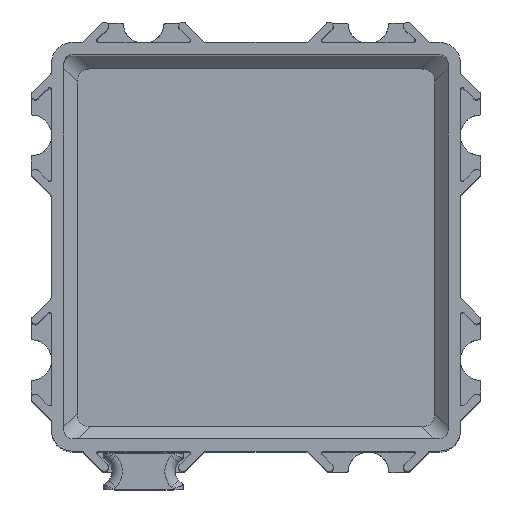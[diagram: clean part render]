
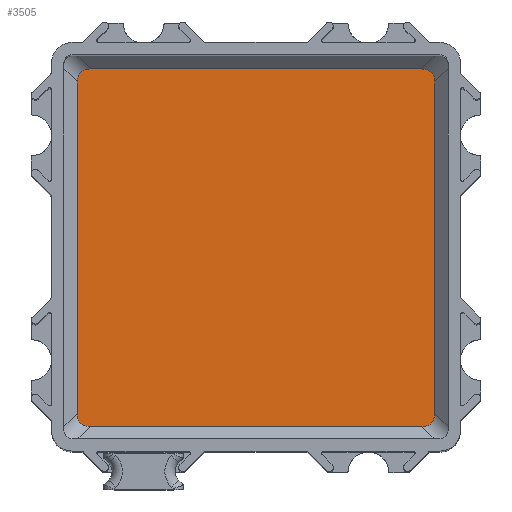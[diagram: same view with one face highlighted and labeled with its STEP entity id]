
A CAD part, top view. The second image highlights one B-rep face of the part: STEP entity #3505.
In plain terms, the highlighted planar face has unit normal (0, 0, 1).
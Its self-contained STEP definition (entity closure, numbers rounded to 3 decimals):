
#272=LINE('',#5756,#580);
#278=LINE('',#5785,#586);
#289=LINE('',#5844,#597);
#291=LINE('',#5847,#599);
#580=VECTOR('',#4707,10.);
#586=VECTOR('',#4727,10.);
#597=VECTOR('',#4764,10.);
#599=VECTOR('',#4768,10.);
#724=PLANE('',#3856);
#875=FACE_OUTER_BOUND('',#1055,.T.);
#1055=EDGE_LOOP('',(#2894,#2895,#2896,#2897,#2898,#2899,#2900,#2901));
#1138=ELLIPSE('',#3830,3.118,1.8);
#1142=ELLIPSE('',#3838,3.118,1.8);
#1145=ELLIPSE('',#3846,3.118,1.8);
#1147=ELLIPSE('',#3850,3.118,1.8);
#1538=VERTEX_POINT('',#5726);
#1539=VERTEX_POINT('',#5727);
#1544=VERTEX_POINT('',#5755);
#1547=VERTEX_POINT('',#5765);
#1550=VERTEX_POINT('',#5784);
#1554=VERTEX_POINT('',#5811);
#1558=VERTEX_POINT('',#5832);
#1559=VERTEX_POINT('',#5833);
#1984=EDGE_CURVE('',#1538,#1539,#1138,.T.);
#1992=EDGE_CURVE('',#1544,#1538,#272,.T.);
#1997=EDGE_CURVE('',#1547,#1544,#1142,.T.);
#2002=EDGE_CURVE('',#1550,#1547,#278,.T.);
#2009=EDGE_CURVE('',#1554,#1550,#1145,.T.);
#2015=EDGE_CURVE('',#1558,#1559,#1147,.T.);
#2021=EDGE_CURVE('',#1559,#1554,#289,.T.);
#2023=EDGE_CURVE('',#1539,#1558,#291,.T.);
#2894=ORIENTED_EDGE('',*,*,#1984,.T.);
#2895=ORIENTED_EDGE('',*,*,#2023,.T.);
#2896=ORIENTED_EDGE('',*,*,#2015,.T.);
#2897=ORIENTED_EDGE('',*,*,#2021,.T.);
#2898=ORIENTED_EDGE('',*,*,#2009,.T.);
#2899=ORIENTED_EDGE('',*,*,#2002,.T.);
#2900=ORIENTED_EDGE('',*,*,#1997,.T.);
#2901=ORIENTED_EDGE('',*,*,#1992,.T.);
#3505=ADVANCED_FACE('',(#875),#724,.F.);
#3830=AXIS2_PLACEMENT_3D('',#5728,#4693,#4694);
#3838=AXIS2_PLACEMENT_3D('',#5766,#4717,#4718);
#3846=AXIS2_PLACEMENT_3D('',#5812,#4740,#4741);
#3850=AXIS2_PLACEMENT_3D('',#5834,#4751,#4752);
#3856=AXIS2_PLACEMENT_3D('',#5848,#4769,#4770);
#4693=DIRECTION('center_axis',(0.,0.,1.));
#4694=DIRECTION('ref_axis',(-0.707,0.707,0.));
#4707=DIRECTION('',(-1.,0.,0.));
#4717=DIRECTION('center_axis',(0.,0.,1.));
#4718=DIRECTION('ref_axis',(0.707,0.707,0.));
#4727=DIRECTION('',(0.,1.,0.));
#4740=DIRECTION('center_axis',(0.,0.,1.));
#4741=DIRECTION('ref_axis',(0.707,-0.707,0.));
#4751=DIRECTION('center_axis',(0.,0.,1.));
#4752=DIRECTION('ref_axis',(-0.707,-0.707,0.));
#4764=DIRECTION('',(1.,0.,0.));
#4768=DIRECTION('',(0.,-1.,0.));
#4769=DIRECTION('center_axis',(0.,0.,-1.));
#4770=DIRECTION('ref_axis',(-1.,0.,0.));
#5726=CARTESIAN_POINT('',(5.77,39.503,-60.));
#5727=CARTESIAN_POINT('',(4.497,38.23,-60.));
#5728=CARTESIAN_POINT('Origin',(7.043,36.957,-60.));
#5755=CARTESIAN_POINT('',(38.23,39.503,-60.));
#5756=CARTESIAN_POINT('',(17.,39.503,-60.));
#5765=CARTESIAN_POINT('',(39.503,38.23,-60.));
#5766=CARTESIAN_POINT('Origin',(36.957,36.957,-60.));
#5784=CARTESIAN_POINT('',(39.503,5.77,-60.));
#5785=CARTESIAN_POINT('',(39.503,27.,-60.));
#5811=CARTESIAN_POINT('',(38.23,4.497,-60.));
#5812=CARTESIAN_POINT('Origin',(36.957,7.043,-60.));
#5832=CARTESIAN_POINT('',(4.497,5.77,-60.));
#5833=CARTESIAN_POINT('',(5.77,4.497,-60.));
#5834=CARTESIAN_POINT('Origin',(7.043,7.043,-60.));
#5844=CARTESIAN_POINT('',(27.,4.497,-60.));
#5847=CARTESIAN_POINT('',(4.497,17.,-60.));
#5848=CARTESIAN_POINT('Origin',(22.,22.,-60.));
